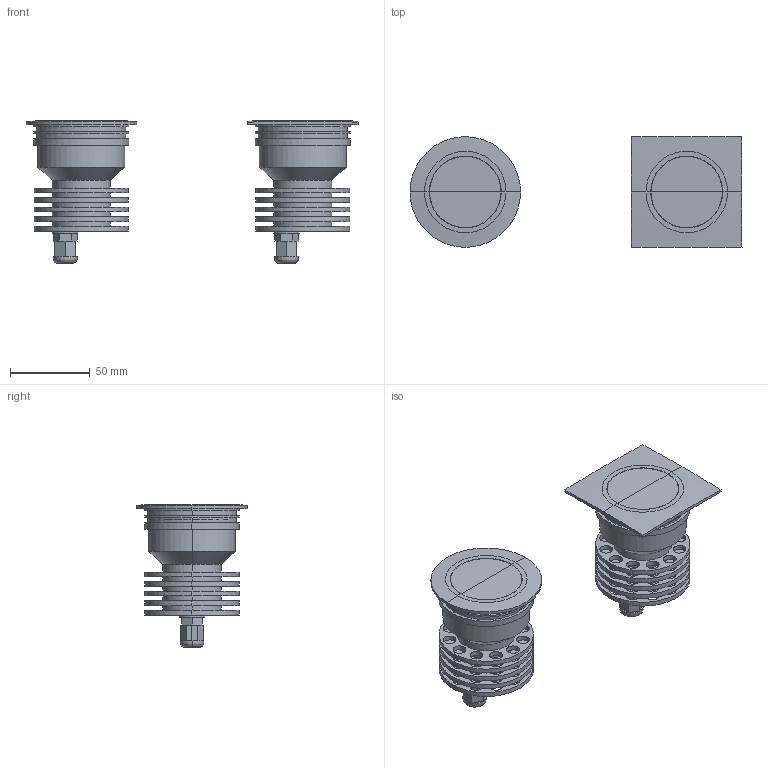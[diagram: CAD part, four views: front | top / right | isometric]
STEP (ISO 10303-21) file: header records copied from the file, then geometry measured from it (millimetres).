
FILE_DESCRIPTION(/* description */ (''),/* implementation_level */ '2;1');
FILE_NAME(/* name */ 'Hop 10-724',/* time_stamp */ '2025-06-18T17:58:25+02:00',/* author */ (''),/* organization */ (''),/* preprocessor_version */ 'ST-DEVELOPER v15',/* originating_system */ '',/* authorisation */ '');
FILE_SCHEMA (('CONFIG_CONTROL_DESIGN'));
Products named in the file (1): Document
Bounding box: 207.78 x 69.2 x 89.4 mm (x, y, z)
Volume: 226071.6 mm3; surface area: 118965.2 mm2
Topology: 12 solids, 12 shells, 1370 faces, 3470 edges, 1986 vertices
Faces by surface type: bspline 1370
Entity records: 120468 total; most frequent: CARTESIAN_POINT 77476, B_SPLINE_CURVE_WITH_KNOTS 8804, ORIENTED_EDGE 6760, PCURVE 6760, DEFINITIONAL_REPRESENTATION 6760, SURFACE_CURVE 3380, EDGE_CURVE 3380, VERTEX_POINT 1984
